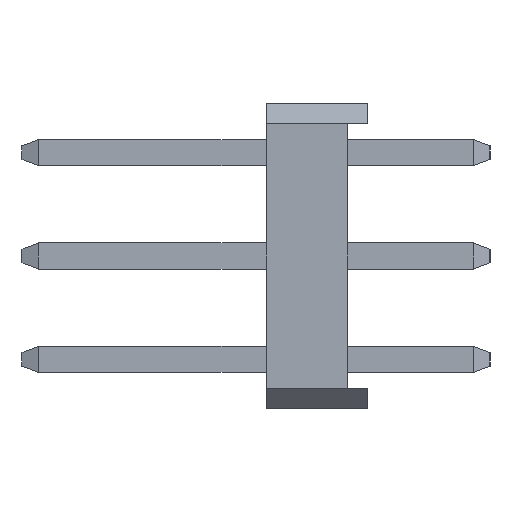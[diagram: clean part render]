
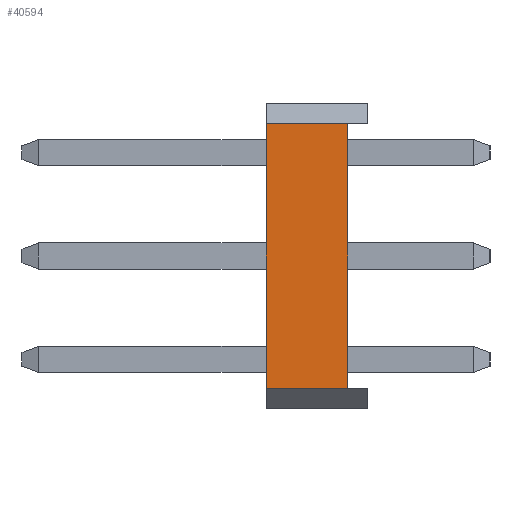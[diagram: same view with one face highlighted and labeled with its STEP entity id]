
A CAD part, left-side view. The second image highlights one B-rep face of the part: STEP entity #40594.
In plain terms, the highlighted planar face has unit normal (-1, 0, 0).
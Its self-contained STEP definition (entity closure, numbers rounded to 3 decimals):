
#2035 = DIRECTION ( 'NONE',  ( 0., 0., -1. ) ) ;
#2990 = LINE ( 'NONE', #48458, #5386 ) ;
#5386 = VECTOR ( 'NONE', #20425, 1000. ) ;
#6231 = VERTEX_POINT ( 'NONE', #36060 ) ;
#7938 = DIRECTION ( 'NONE',  ( -1., 0., 0. ) ) ;
#8835 = LINE ( 'NONE', #39028, #45713 ) ;
#9796 = CARTESIAN_POINT ( 'NONE',  ( -86.32, 6.9, -2. ) ) ;
#10622 = ORIENTED_EDGE ( 'NONE', *, *, #50995, .T. ) ;
#12079 = FACE_OUTER_BOUND ( 'NONE', #45078, .T. ) ;
#16849 = ORIENTED_EDGE ( 'NONE', *, *, #43681, .T. ) ;
#17296 = LINE ( 'NONE', #29520, #22578 ) ;
#20008 = CARTESIAN_POINT ( 'NONE',  ( -86.32, 8.9, 4.5 ) ) ;
#20425 = DIRECTION ( 'NONE',  ( 0., 1., 0. ) ) ;
#21460 = DIRECTION ( 'NONE',  ( 0., 0., 1. ) ) ;
#22578 = VECTOR ( 'NONE', #21460, 1000. ) ;
#27347 = AXIS2_PLACEMENT_3D ( 'NONE', #42852, #7938, #39279 ) ;
#28689 = LINE ( 'NONE', #46643, #31307 ) ;
#29211 = CARTESIAN_POINT ( 'NONE',  ( -86.32, 8.9, -2. ) ) ;
#29520 = CARTESIAN_POINT ( 'NONE',  ( -86.32, 6.9, -1. ) ) ;
#30171 = PLANE ( 'NONE',  #27347 ) ;
#31307 = VECTOR ( 'NONE', #2035, 1000. ) ;
#33809 = VERTEX_POINT ( 'NONE', #20008 ) ;
#36060 = CARTESIAN_POINT ( 'NONE',  ( -86.32, 6.9, 4.5 ) ) ;
#39028 = CARTESIAN_POINT ( 'NONE',  ( -86.32, 6.4, 4.5 ) ) ;
#39279 = DIRECTION ( 'NONE',  ( 0., 1., 0. ) ) ;
#39698 = EDGE_CURVE ( 'NONE', #55811, #50512, #2990, .T. ) ;
#40594 = ADVANCED_FACE ( 'NONE', ( #12079 ), #30171, .T. ) ;
#42852 = CARTESIAN_POINT ( 'NONE',  ( -86.32, 6.4, -2. ) ) ;
#43681 = EDGE_CURVE ( 'NONE', #55811, #6231, #17296, .T. ) ;
#45078 = EDGE_LOOP ( 'NONE', ( #16849, #54025, #10622, #45240 ) ) ;
#45240 = ORIENTED_EDGE ( 'NONE', *, *, #39698, .F. ) ;
#45713 = VECTOR ( 'NONE', #57562, 1000. ) ;
#46643 = CARTESIAN_POINT ( 'NONE',  ( -86.32, 8.9, 2.5 ) ) ;
#47660 = EDGE_CURVE ( 'NONE', #6231, #33809, #8835, .T. ) ;
#48458 = CARTESIAN_POINT ( 'NONE',  ( -86.32, 6.4, -2. ) ) ;
#50512 = VERTEX_POINT ( 'NONE', #29211 ) ;
#50995 = EDGE_CURVE ( 'NONE', #33809, #50512, #28689, .T. ) ;
#54025 = ORIENTED_EDGE ( 'NONE', *, *, #47660, .T. ) ;
#55811 = VERTEX_POINT ( 'NONE', #9796 ) ;
#57562 = DIRECTION ( 'NONE',  ( 0., 1., 0. ) ) ;
